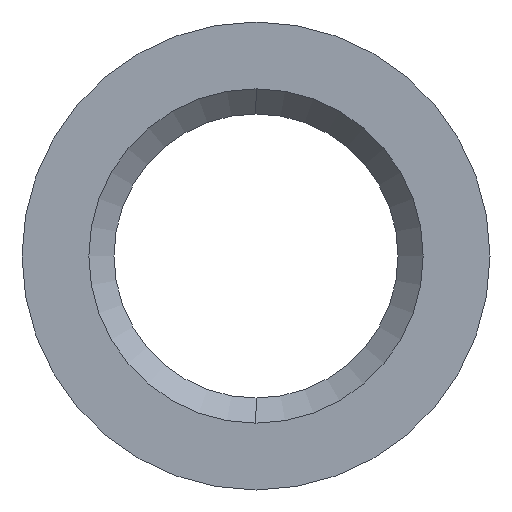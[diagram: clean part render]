
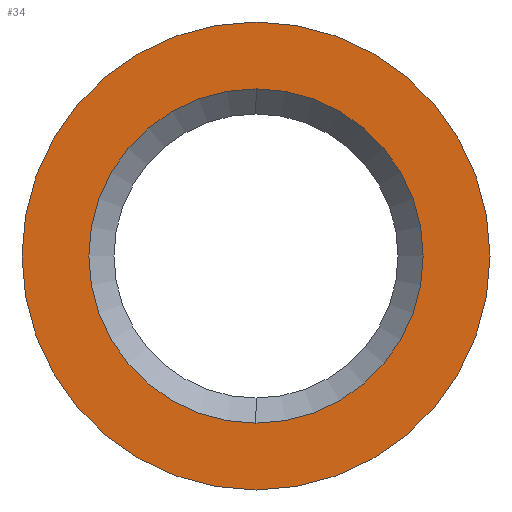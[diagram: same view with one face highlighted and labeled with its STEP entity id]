
A CAD part, left-side view. The second image highlights one B-rep face of the part: STEP entity #34.
In plain terms, the highlighted planar face has unit normal (-1, 0, 0).
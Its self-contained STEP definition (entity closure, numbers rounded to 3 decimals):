
#34 = ADVANCED_FACE ( 'NONE', ( #687, #680 ), #355, .T. ) ;
#46 = CARTESIAN_POINT ( 'NONE',  ( -10.77, 0., 7. ) ) ;
#82 = DIRECTION ( 'NONE',  ( -1., 0., 0. ) ) ;
#115 = EDGE_CURVE ( 'NONE', #895, #482, #337, .T. ) ;
#119 = CIRCLE ( 'NONE', #698, 5. ) ;
#129 = CARTESIAN_POINT ( 'NONE',  ( -10.77, 0., 0. ) ) ;
#131 = EDGE_CURVE ( 'NONE', #482, #895, #119, .T. ) ;
#156 = VERTEX_POINT ( 'NONE', #46 ) ;
#184 = ORIENTED_EDGE ( 'NONE', *, *, #729, .T. ) ;
#206 = DIRECTION ( 'NONE',  ( 0., 0., 1. ) ) ;
#213 = CARTESIAN_POINT ( 'NONE',  ( -10.77, 0., 0. ) ) ;
#230 = ORIENTED_EDGE ( 'NONE', *, *, #131, .T. ) ;
#234 = CARTESIAN_POINT ( 'NONE',  ( -10.77, 0., 0. ) ) ;
#238 = DIRECTION ( 'NONE',  ( -1., 0., 0. ) ) ;
#306 = VERTEX_POINT ( 'NONE', #977 ) ;
#317 = AXIS2_PLACEMENT_3D ( 'NONE', #944, #1014, #427 ) ;
#324 = EDGE_LOOP ( 'NONE', ( #230, #611 ) ) ;
#337 = CIRCLE ( 'NONE', #558, 5. ) ;
#355 = PLANE ( 'NONE',  #317 ) ;
#426 = AXIS2_PLACEMENT_3D ( 'NONE', #430, #82, #922 ) ;
#427 = DIRECTION ( 'NONE',  ( 0., 0., 1. ) ) ;
#430 = CARTESIAN_POINT ( 'NONE',  ( -10.77, 0., 0. ) ) ;
#448 = ORIENTED_EDGE ( 'NONE', *, *, #872, .T. ) ;
#482 = VERTEX_POINT ( 'NONE', #935 ) ;
#494 = CIRCLE ( 'NONE', #561, 7. ) ;
#558 = AXIS2_PLACEMENT_3D ( 'NONE', #129, #967, #876 ) ;
#561 = AXIS2_PLACEMENT_3D ( 'NONE', #234, #238, #656 ) ;
#611 = ORIENTED_EDGE ( 'NONE', *, *, #115, .T. ) ;
#656 = DIRECTION ( 'NONE',  ( 0., 0., 1. ) ) ;
#666 = CARTESIAN_POINT ( 'NONE',  ( -10.77, 0., -5. ) ) ;
#680 = FACE_OUTER_BOUND ( 'NONE', #904, .T. ) ;
#687 = FACE_BOUND ( 'NONE', #324, .T. ) ;
#698 = AXIS2_PLACEMENT_3D ( 'NONE', #213, #885, #206 ) ;
#729 = EDGE_CURVE ( 'NONE', #156, #306, #494, .T. ) ;
#872 = EDGE_CURVE ( 'NONE', #306, #156, #1047, .T. ) ;
#876 = DIRECTION ( 'NONE',  ( 0., 0., 1. ) ) ;
#885 = DIRECTION ( 'NONE',  ( 1., 0., 0. ) ) ;
#895 = VERTEX_POINT ( 'NONE', #666 ) ;
#904 = EDGE_LOOP ( 'NONE', ( #448, #184 ) ) ;
#922 = DIRECTION ( 'NONE',  ( 0., 0., 1. ) ) ;
#935 = CARTESIAN_POINT ( 'NONE',  ( -10.77, 0., 5. ) ) ;
#944 = CARTESIAN_POINT ( 'NONE',  ( -10.77, 0., 0. ) ) ;
#967 = DIRECTION ( 'NONE',  ( 1., 0., 0. ) ) ;
#977 = CARTESIAN_POINT ( 'NONE',  ( -10.77, 0., -7. ) ) ;
#1014 = DIRECTION ( 'NONE',  ( -1., 0., 0. ) ) ;
#1047 = CIRCLE ( 'NONE', #426, 7. ) ;
